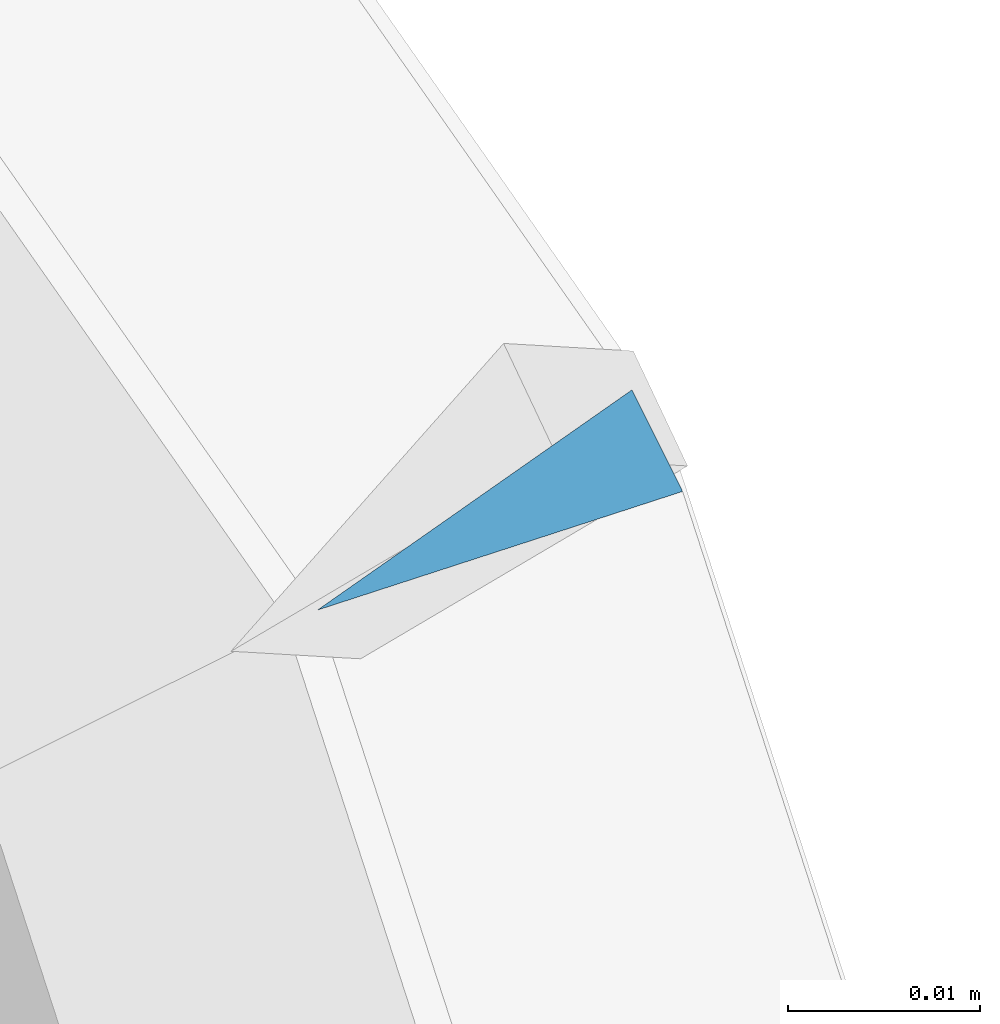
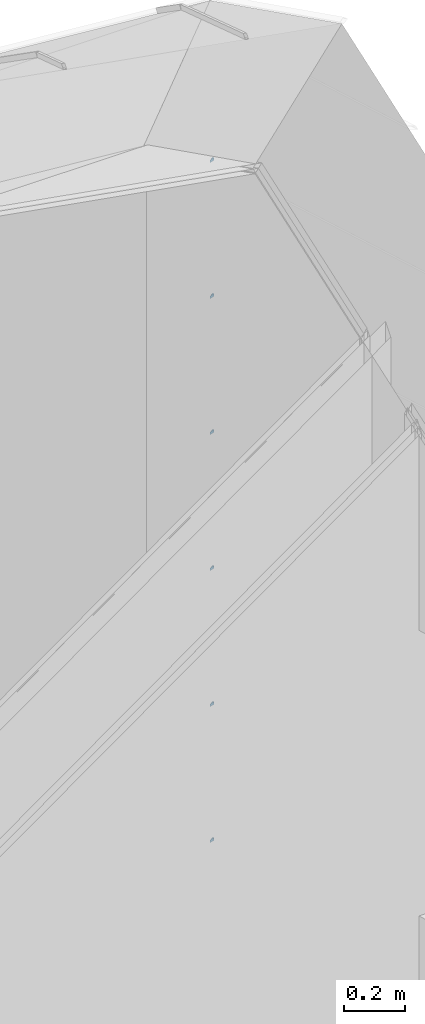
# One storey, part 385 of 583: 6 slabs.
"""IFC2X3 building model written with IfcOpenShell, lengths in metres."""

from ifc_helpers import new_model, entity, si_unit, converted_unit, derived_unit, money_unit, direction, frame, origin_with_axes, place, context, subcontext, project, spatial, faceted_brep, material, type_object, element, save


model = new_model("IFC2X3")

# Units and contexts
model_context = context("Model", 3, precision=1e-05, world=origin_with_axes(), true_north=direction((0.0, 1.0)))
body_context = subcontext(model_context, "Body", "Model", "MODEL_VIEW", scale=1.0)
ifc_project = project(units=[si_unit("LENGTHUNIT", "METRE"), si_unit("AREAUNIT", "SQUARE_METRE"), si_unit("VOLUMEUNIT", "CUBIC_METRE"), si_unit("ABSORBEDDOSEUNIT", "GRAY"), si_unit("AMOUNTOFSUBSTANCEUNIT", "MOLE"), si_unit("DOSEEQUIVALENTUNIT", "SIEVERT"), si_unit("ELECTRICCAPACITANCEUNIT", "FARAD"), si_unit("ELECTRICCHARGEUNIT", "COULOMB"), si_unit("ELECTRICCONDUCTANCEUNIT", "SIEMENS"), si_unit("ELECTRICCURRENTUNIT", "AMPERE"), si_unit("ELECTRICRESISTANCEUNIT", "OHM"), si_unit("ELECTRICVOLTAGEUNIT", "VOLT"), si_unit("ENERGYUNIT", "JOULE"), si_unit("FORCEUNIT", "NEWTON"), si_unit("FREQUENCYUNIT", "HERTZ"), si_unit("ILLUMINANCEUNIT", "LUX"), si_unit("INDUCTANCEUNIT", "HENRY"), si_unit("LUMINOUSFLUXUNIT", "LUMEN"), si_unit("LUMINOUSINTENSITYUNIT", "CANDELA"), si_unit("MAGNETICFLUXDENSITYUNIT", "TESLA"), si_unit("MAGNETICFLUXUNIT", "WEBER"), si_unit("MASSUNIT", "GRAM"), converted_unit("PLANEANGLEUNIT", "degree", entity("IfcReal", 0.0174532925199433), si_unit("PLANEANGLEUNIT", "RADIAN"), dimensions=[0, 0, 0, 0, 0, 0, 0]), si_unit("POWERUNIT", "WATT"), si_unit("PRESSUREUNIT", "PASCAL"), si_unit("RADIOACTIVITYUNIT", "BECQUEREL"), si_unit("SOLIDANGLEUNIT", "STERADIAN"), si_unit("THERMODYNAMICTEMPERATUREUNIT", "KELVIN"), si_unit("TIMEUNIT", "SECOND"), derived_unit("ACCELERATIONUNIT", [(si_unit("LENGTHUNIT", "METRE"), 1), (si_unit("TIMEUNIT", "SECOND"), -2)]), derived_unit("ANGULARVELOCITYUNIT", [(converted_unit("PLANEANGLEUNIT", "degree", entity("IfcReal", 0.0174532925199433), si_unit("PLANEANGLEUNIT", "RADIAN"), dimensions=[0, 0, 0, 0, 0, 0, 0]), 1), (si_unit("TIMEUNIT", "SECOND"), -1)]), derived_unit("CURVATUREUNIT", [(converted_unit("PLANEANGLEUNIT", "degree", entity("IfcReal", 0.0174532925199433), si_unit("PLANEANGLEUNIT", "RADIAN"), dimensions=[0, 0, 0, 0, 0, 0, 0]), 1), (si_unit("LENGTHUNIT", "METRE"), -1)]), derived_unit("DYNAMICVISCOSITYUNIT", [(si_unit("PRESSUREUNIT", "PASCAL"), 1), (si_unit("TIMEUNIT", "SECOND"), 1)]), derived_unit("HEATFLUXDENSITYUNIT", [(si_unit("POWERUNIT", "WATT"), 1), (si_unit("LENGTHUNIT", "METRE"), -2)]), derived_unit("HEATINGVALUEUNIT", [(si_unit("ENERGYUNIT", "JOULE"), 1), (si_unit("MASSUNIT", "GRAM"), -1)]), derived_unit("INTEGERCOUNTRATEUNIT", [(si_unit("TIMEUNIT", "SECOND"), -1)]), derived_unit("IONCONCENTRATIONUNIT", [(si_unit("MASSUNIT", "GRAM"), 1), (si_unit("VOLUMEUNIT", "CUBIC_METRE"), -1)]), derived_unit("ISOTHERMALMOISTURECAPACITYUNIT", [(si_unit("VOLUMEUNIT", "CUBIC_METRE"), 1), (si_unit("MASSUNIT", "GRAM"), -1)]), derived_unit("KINEMATICVISCOSITYUNIT", [(si_unit("AREAUNIT", "SQUARE_METRE"), 1), (si_unit("TIMEUNIT", "SECOND"), -1)]), derived_unit("LINEARFORCEUNIT", [(si_unit("FORCEUNIT", "NEWTON"), 1), (si_unit("LENGTHUNIT", "METRE"), -1)]), derived_unit("LINEARMOMENTUNIT", [(si_unit("FORCEUNIT", "NEWTON"), 1), (si_unit("LENGTHUNIT", "METRE"), -1)]), derived_unit("LINEARSTIFFNESSUNIT", [(si_unit("FORCEUNIT", "NEWTON"), 1), (si_unit("LENGTHUNIT", "METRE"), -1)]), derived_unit("LINEARVELOCITYUNIT", [(si_unit("LENGTHUNIT", "METRE"), 1), (si_unit("TIMEUNIT", "SECOND"), -1)]), derived_unit("LUMINOUSINTENSITYDISTRIBUTIONUNIT", [(si_unit("LUMINOUSINTENSITYUNIT", "CANDELA"), 1), (si_unit("LUMINOUSFLUXUNIT", "LUMEN"), -1)]), derived_unit("MASSDENSITYUNIT", [(si_unit("MASSUNIT", "GRAM"), 1), (si_unit("VOLUMEUNIT", "CUBIC_METRE"), -1)]), derived_unit("MASSFLOWRATEUNIT", [(si_unit("MASSUNIT", "GRAM"), 1), (si_unit("TIMEUNIT", "SECOND"), -1)]), derived_unit("MASSPERLENGTHUNIT", [(si_unit("MASSUNIT", "GRAM"), 1), (si_unit("LENGTHUNIT", "METRE"), -1)]), derived_unit("MODULUSOFELASTICITYUNIT", [(si_unit("FORCEUNIT", "NEWTON"), 1), (si_unit("AREAUNIT", "SQUARE_METRE"), -1)]), derived_unit("MODULUSOFLINEARSUBGRADEREACTIONUNIT", [(si_unit("FORCEUNIT", "NEWTON"), 1), (si_unit("LENGTHUNIT", "METRE"), -2)]), derived_unit("MODULUSOFROTATIONALSUBGRADEREACTIONUNIT", [(si_unit("FORCEUNIT", "NEWTON"), 1), (si_unit("LENGTHUNIT", "METRE"), 1)]), derived_unit("MODULUSOFSUBGRADEREACTIONUNIT", [(si_unit("FORCEUNIT", "NEWTON"), 1), (si_unit("VOLUMEUNIT", "CUBIC_METRE"), -1)]), derived_unit("MOISTUREDIFFUSIVITYUNIT", [(si_unit("VOLUMEUNIT", "CUBIC_METRE"), 1), (si_unit("TIMEUNIT", "SECOND"), -1)]), derived_unit("MOLECULARWEIGHTUNIT", [(si_unit("MASSUNIT", "GRAM"), 1), (si_unit("AMOUNTOFSUBSTANCEUNIT", "MOLE"), -1)]), derived_unit("PLANARFORCEUNIT", [(si_unit("FORCEUNIT", "NEWTON"), 1), (si_unit("LENGTHUNIT", "METRE"), -2)]), derived_unit("ROTATIONALFREQUENCYUNIT", [(si_unit("TIMEUNIT", "SECOND"), -1)]), derived_unit("ROTATIONALMASSUNIT", [(si_unit("MASSUNIT", "GRAM"), 1), (si_unit("LENGTHUNIT", "METRE"), 2)]), derived_unit("ROTATIONALSTIFFNESSUNIT", [(si_unit("FORCEUNIT", "NEWTON"), 1), (si_unit("LENGTHUNIT", "METRE"), 1), (converted_unit("PLANEANGLEUNIT", "degree", entity("IfcReal", 0.0174532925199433), si_unit("PLANEANGLEUNIT", "RADIAN"), dimensions=[0, 0, 0, 0, 0, 0, 0]), -1)]), derived_unit("SECTIONAREAINTEGRALUNIT", [(si_unit("LENGTHUNIT", "METRE"), 5)]), derived_unit("SECTIONMODULUSUNIT", [(si_unit("LENGTHUNIT", "METRE"), 3)]), derived_unit("SHEARMODULUSUNIT", [(si_unit("FORCEUNIT", "NEWTON"), 1), (si_unit("AREAUNIT", "SQUARE_METRE"), -1)]), derived_unit("SOUNDPOWERUNIT", [(si_unit("ENERGYUNIT", "JOULE"), 1), (si_unit("TIMEUNIT", "SECOND"), -1)]), derived_unit("SPECIFICHEATCAPACITYUNIT", [(si_unit("FORCEUNIT", "NEWTON"), 1), (si_unit("MASSUNIT", "GRAM"), -1), (si_unit("THERMODYNAMICTEMPERATUREUNIT", "KELVIN"), -1)]), derived_unit("TEMPERATUREGRADIENTUNIT", [(si_unit("THERMODYNAMICTEMPERATUREUNIT", "KELVIN"), 1), (si_unit("LENGTHUNIT", "METRE"), -1)]), derived_unit("THERMALADMITTANCEUNIT", [(si_unit("POWERUNIT", "WATT"), 1), (si_unit("AREAUNIT", "SQUARE_METRE"), -1), (si_unit("THERMODYNAMICTEMPERATUREUNIT", "KELVIN"), -1)]), derived_unit("THERMALCONDUCTANCEUNIT", [(si_unit("POWERUNIT", "WATT"), 1), (si_unit("LENGTHUNIT", "METRE"), -1), (si_unit("THERMODYNAMICTEMPERATUREUNIT", "KELVIN"), -1)]), derived_unit("THERMALEXPANSIONCOEFFICIENTUNIT", [(si_unit("THERMODYNAMICTEMPERATUREUNIT", "KELVIN"), -1)]), derived_unit("THERMALRESISTANCEUNIT", [(si_unit("AREAUNIT", "SQUARE_METRE"), 1), (si_unit("POWERUNIT", "WATT"), -1)]), derived_unit("THERMALTRANSMITTANCEUNIT", [(si_unit("POWERUNIT", "WATT"), 1), (si_unit("AREAUNIT", "SQUARE_METRE"), -1), (si_unit("THERMODYNAMICTEMPERATUREUNIT", "KELVIN"), -1)]), derived_unit("TORQUEUNIT", [(si_unit("FORCEUNIT", "NEWTON"), 1), (si_unit("LENGTHUNIT", "METRE"), 1)]), derived_unit("VAPORPERMEABILITYUNIT", [(si_unit("MASSUNIT", "GRAM"), 1), (si_unit("TIMEUNIT", "SECOND"), -1)]), derived_unit("VOLUMETRICFLOWRATEUNIT", [(si_unit("VOLUMEUNIT", "CUBIC_METRE"), 1), (si_unit("TIMEUNIT", "SECOND"), -1)]), derived_unit("WARPINGCONSTANTUNIT", [(si_unit("LENGTHUNIT", "METRE"), 6)]), derived_unit("WARPINGMOMENTUNIT", [(si_unit("FORCEUNIT", "NEWTON"), 1), (si_unit("LENGTHUNIT", "METRE"), 2)]), money_unit("GBP")], contexts=[model_context])

# Site, building, storey
site_placement = place(None, origin_with_axes())
site = spatial("IfcSite", under=ifc_project, at=site_placement, Name="Site", CompositionType="ELEMENT")
building_placement = place(site_placement, origin_with_axes())
building = spatial("IfcBuilding", under=site, at=building_placement, Name="Building01", CompositionType="ELEMENT")
storey_placement = place(building_placement, frame((0.0, 0.0, 20.78), z_axis=(0.0, 0.0, 1.0), x_axis=(1.0, 0.0, 0.0)))
storey = spatial("IfcBuildingStorey", under=building, at=storey_placement, Name="RL", CompositionType="ELEMENT", Elevation=20.78)

# Slabs
ifc_material = material(Name="A_BSUK_Roofs")
slab_type = type_object("IfcSlabType", Name="A-FloorsSlabs A_BSUK_Slabs", PredefinedType="FLOOR")
for number, where, z_axis, x_axis, name in (
    (1, (13.582123, 18.791933, 1.475024), (0.0, 1.0, 0.0), (0.0, 0.0, -1.0), "A-FloorsSlabs A_BSUK_Slabs"),
    (2, (13.582123, 18.791933, 2.022524), (0.0, 1.0, 0.0), (0.0, 0.0, -1.0), "A-FloorsSlabs A_BSUK_Slabs"),
    (3, (13.582123, 18.791933, 2.570024), (0.0, 1.0, 0.0), (0.0, 0.0, -1.0), "A-FloorsSlabs A_BSUK_Slabs"),
    (4, (13.582123, 18.791933, 3.117524), (0.0, 1.0, 0.0), (0.0, 0.0, -1.0), "A-FloorsSlabs A_BSUK_Slabs"),
    (5, (13.582123, 18.791933, 3.665024), (0.0, 1.0, 0.0), (0.0, 0.0, -1.0), "A-FloorsSlabs A_BSUK_Slabs"),
    (6, (13.582123, 18.791933, 4.212524), (0.0, 1.0, 0.0), (0.0, 0.0, -1.0), "A-FloorsSlabs A_BSUK_Slabs"),
):
    element("IfcSlab", number, at=place(storey_placement, frame(where, z_axis=z_axis, x_axis=x_axis)), inside=storey, type_object=slab_type, material=ifc_material, Name=name, ObjectType="A-FloorsSlabs A_BSUK_Slabs", context=body_context, shape_type="Brep", body=[
        faceted_brep([(0.0, 0.0, 0.0), (-0.01, 0.0, 0.0), (-0.01, -0.002638, -0.005291), (0.0, -0.002638, -0.005291), (-0.01, 0.016383, -0.011472), (0.0, 0.016383, -0.011472)], [[[0, 1, 2, 3]], [[3, 2, 4, 5]], [[5, 4, 1, 0]], [[1, 4, 2]], [[3, 5, 0]]]),
    ])

save(model, "model.ifc")
